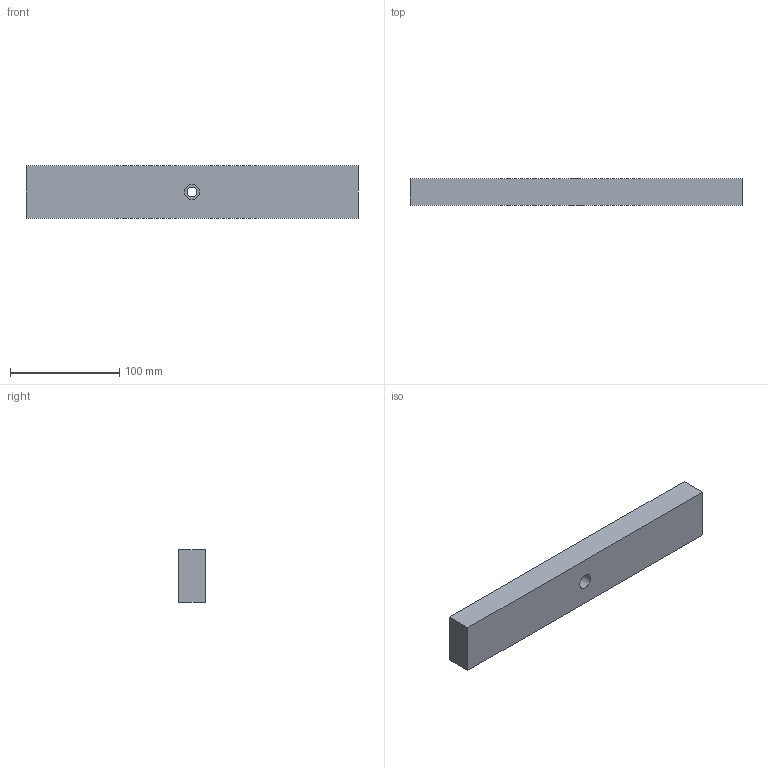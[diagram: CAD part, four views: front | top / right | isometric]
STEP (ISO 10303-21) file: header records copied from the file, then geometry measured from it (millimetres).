
FILE_DESCRIPTION (( 'STEP AP203' ), '1' );
FILE_NAME ('Tasseau_304_Fond.STEP', '2026-06-24T07:29:49', ( '' ), ( '' ), 'SwSTEP 2.0', 'SolidWorks 2024', '' );
FILE_SCHEMA (( 'CONFIG_CONTROL_DESIGN' ));
Length unit declared in the file: millimetre
Products named in the file (1): Tasseau_304_Fond_Percé
Bounding box: 304 x 24 x 48 mm (x, y, z)
Volume: 347597.3 mm3; surface area: 46819.8 mm2
Topology: 1 solids, 1 shells, 9 faces, 19 edges, 13 vertices
Faces by surface type: plane 7, cylinder 2
Full cylindrical faces by diameter (mm): 9 x1, 14 x1
Entity records: 305 total; most frequent: DIRECTION 40, CARTESIAN_POINT 38, ORIENTED_EDGE 32, EDGE_CURVE 16, EDGE_LOOP 14, AXIS2_PLACEMENT_3D 14, LINE 12, VERTEX_POINT 12
